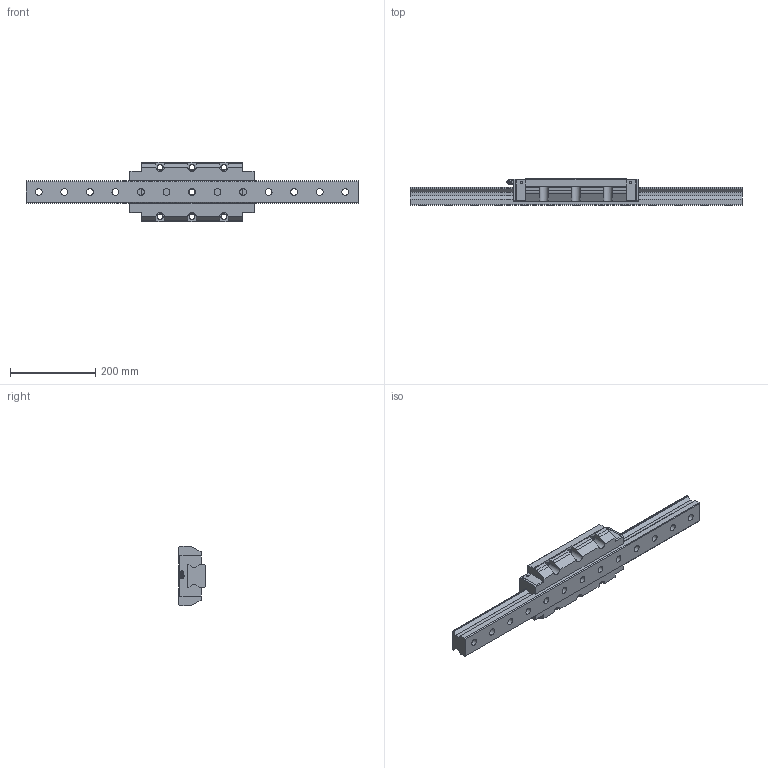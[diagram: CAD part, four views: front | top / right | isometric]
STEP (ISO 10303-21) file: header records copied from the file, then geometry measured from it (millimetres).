
FILE_DESCRIPTION(/* description */ ('STEP AP203'),/* implementation_level */ '2;1');
FILE_NAME(/* name */ 'SRN55SLC1SS-780L_G30_0_B-PT18_244_0_0_0',/* time_stamp */ '2024-05-23T10:45:45+02:00',/* author */ ('License CC BY-ND 4.0'),/* organization */ ('CADENAS'),/* preprocessor_version */ 'ST-DEVELOPER v19.3',/* originating_system */ 'PARTsolutions',/* authorisation */ ' ');
FILE_SCHEMA (('CONFIG_CONTROL_DESIGN'));
Length unit declared in the file: millimetre
Products named in the file (4): SRN55SLC1SS-780L_G30_0_B-PT18_244_0_0_0; SRN55SLC78030 Track; SRN55SLCSSB-PT1/8 Slide35-65; B-PT1/8-SRN_grease_nipple_joint
Assembly tree (3 placements, depth 2):
  SRN55SLC1SS-780L_G30_0_B-PT18_244_0_0_0
    SRN55SLC78030 Track
    SRN55SLCSSB-PT1/8 Slide35-65
    B-PT1/8-SRN_grease_nipple_joint
Bounding box: 780 x 63 x 140 mm (x, y, z)
Volume: 2815072.2 mm3; surface area: 339889.7 mm2
Topology: 3 solids, 3 shells, 279 faces, 736 edges, 482 vertices
Faces by surface type: plane 178, cylinder 66, cone 30, torus 3, sphere 2
Full cylindrical faces by diameter (mm): 5.2 x4, 9.6 x1, 12.5 x9, 16 x13, 23 x13
Entity records: 8376 total; most frequent: CARTESIAN_POINT 1532, DIRECTION 1374, ORIENTED_EDGE 1298, EDGE_CURVE 649, VERTEX_POINT 472, AXIS2_PLACEMENT_3D 469, LINE 436, VECTOR 436
